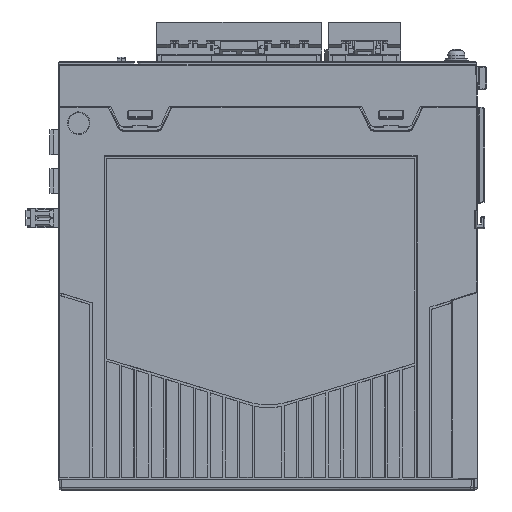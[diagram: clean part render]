
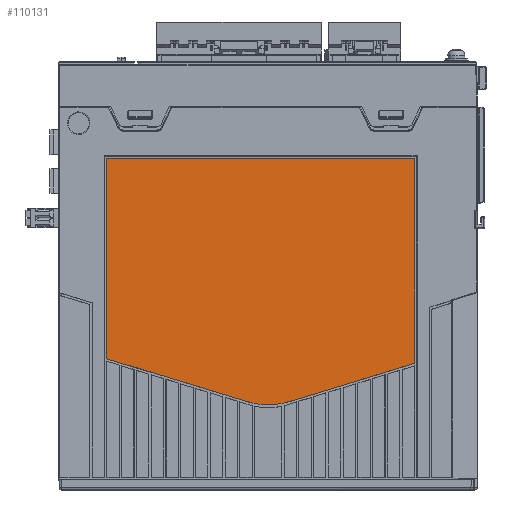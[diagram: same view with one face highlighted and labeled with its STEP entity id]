
A CAD part, left-side view. The second image highlights one B-rep face of the part: STEP entity #110131.
In plain terms, the highlighted planar face has unit normal (-1, 0, 0).
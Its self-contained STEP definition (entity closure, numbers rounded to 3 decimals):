
#45623=DIRECTION('',(0.,0.,-1.));
#45624=VECTOR('',#45623,81.426);
#45625=CARTESIAN_POINT('',(-30.9,140.5,
-21.25));
#45626=LINE('',#45625,#45624);
#45639=CARTESIAN_POINT('',(-30.9,15.499,
-21.25));
#45641=DIRECTION('',(0.,1.,0.));
#45642=VECTOR('',#45641,125.001);
#45643=CARTESIAN_POINT('',(-30.9,15.499,
-21.25));
#45644=LINE('',#45643,#45642);
#45645=CARTESIAN_POINT('',(-30.9,140.5,
-21.25));
#45657=CARTESIAN_POINT('',(-30.9,15.5,
-104.511));
#45659=DIRECTION('',(0.,0.,1.));
#45660=VECTOR('',#45659,83.261);
#45661=CARTESIAN_POINT('',(-30.9,15.5,
-104.511));
#45662=LINE('',#45661,#45660);
#45671=DIRECTION('',(0.,0.956,-0.292));
#45672=VECTOR('',#45671,53.352);
#45673=CARTESIAN_POINT('',(-30.9,15.5,
-104.511));
#45674=LINE('',#45673,#45672);
#45675=CARTESIAN_POINT('',(-30.9,75.,-92.376));
#45676=DIRECTION('',(1.,0.,0.));
#45677=DIRECTION('',(0.,-0.292,-0.956));
#45678=AXIS2_PLACEMENT_3D('',#45675,#45676,#45677);
#45680=CARTESIAN_POINT('',(-30.9,75.,-92.376));
#45681=DIRECTION('',(1.,0.,0.));
#45682=DIRECTION('',(0.,0.,-1.));
#45683=AXIS2_PLACEMENT_3D('',#45680,#45681,#45682);
#45685=DIRECTION('',(0.,0.956,0.292));
#45686=VECTOR('',#45685,59.627);
#45687=CARTESIAN_POINT('',(-30.9,83.479,
-120.109));
#45688=LINE('',#45687,#45686);
#86448=VERTEX_POINT('',#45645);
#86449=CARTESIAN_POINT('',(-30.9,140.5,
-102.676));
#86450=VERTEX_POINT('',#86449);
#86451=VERTEX_POINT('',#45639);
#86452=VERTEX_POINT('',#45657);
#86453=CARTESIAN_POINT('',(-30.9,66.521,
-120.109));
#86454=VERTEX_POINT('',#86453);
#86455=CARTESIAN_POINT('',(-30.9,83.479,
-120.109));
#86456=VERTEX_POINT('',#86455);
#86457=CARTESIAN_POINT('',(-30.9,75.,-121.376));
#86458=VERTEX_POINT('',#86457);
#110117=CARTESIAN_POINT('',(-30.9,77.999,-71.313));
#110118=DIRECTION('',(1.,0.,0.));
#110119=DIRECTION('',(0.,0.,1.));
#110120=AXIS2_PLACEMENT_3D('',#110117,#110118,#110119);
#110121=PLANE('',#110120);
#110122=ORIENTED_EDGE('',*,*,#109996,.F.);
#110123=ORIENTED_EDGE('',*,*,#110018,.F.);
#110124=ORIENTED_EDGE('',*,*,#110039,.F.);
#110125=ORIENTED_EDGE('',*,*,#110060,.T.);
#110126=ORIENTED_EDGE('',*,*,#110084,.T.);
#110127=ORIENTED_EDGE('',*,*,#110082,.T.);
#110128=ORIENTED_EDGE('',*,*,#110104,.T.);
#110129=EDGE_LOOP('',(#110122,#110123,#110124,#110125,#110126,#110127,#110128));
#110130=FACE_OUTER_BOUND('',#110129,.F.);
#45679=CIRCLE('',#45678,29.);
#45684=CIRCLE('',#45683,29.);
#109996=EDGE_CURVE('',#86448,#86450,#45626,.T.);
#110018=EDGE_CURVE('',#86451,#86448,#45644,.T.);
#110039=EDGE_CURVE('',#86452,#86451,#45662,.T.);
#110060=EDGE_CURVE('',#86452,#86454,#45674,.T.);
#110082=EDGE_CURVE('',#86458,#86456,#45684,.T.);
#110084=EDGE_CURVE('',#86454,#86458,#45679,.T.);
#110104=EDGE_CURVE('',#86456,#86450,#45688,.T.);
#110131=ADVANCED_FACE('',(#110130),#110121,.F.);
